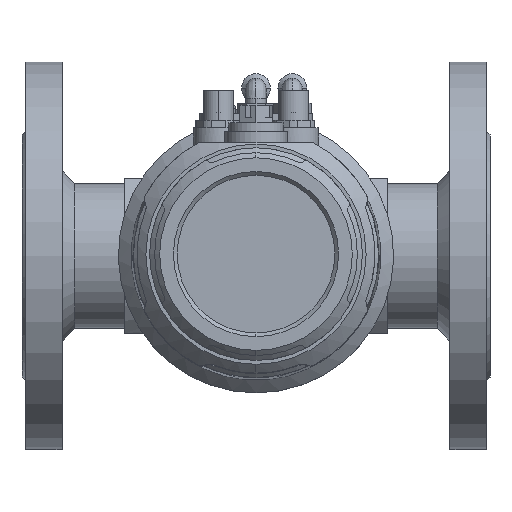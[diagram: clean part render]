
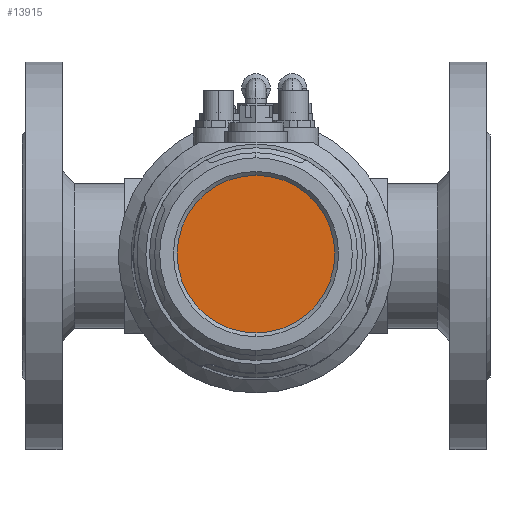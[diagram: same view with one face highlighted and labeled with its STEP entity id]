
A CAD part, top view. The second image highlights one B-rep face of the part: STEP entity #13915.
In plain terms, the highlighted planar face has unit normal (0, 0, 1) as drawn and (0, 1, 0) by its records, which use the part's own axes.
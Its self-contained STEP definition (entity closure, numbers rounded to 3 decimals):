
#9307=CARTESIAN_POINT('',(0.,20.,0.));
#9308=DIRECTION('',(0.,-1.,0.));
#9309=DIRECTION('',(-1.,0.,0.));
#9310=AXIS2_PLACEMENT_3D('',#9307,#9308,#9309);
#9312=CARTESIAN_POINT('',(0.,20.,0.));
#9313=DIRECTION('',(0.,-1.,0.));
#9314=DIRECTION('',(1.,0.,0.));
#9315=AXIS2_PLACEMENT_3D('',#9312,#9313,#9314);
#9333=CARTESIAN_POINT('',(-31.5,20.,0.));
#9334=CARTESIAN_POINT('',(31.5,20.,0.));
#9335=VERTEX_POINT('',#9333);
#9336=VERTEX_POINT('',#9334);
#13906=CARTESIAN_POINT('',(0.,20.,0.));
#13907=DIRECTION('',(0.,1.,0.));
#13908=DIRECTION('',(1.,0.,0.));
#13909=AXIS2_PLACEMENT_3D('',#13906,#13907,#13908);
#13910=PLANE('',#13909);
#13911=ORIENTED_EDGE('',*,*,#13886,.T.);
#13912=ORIENTED_EDGE('',*,*,#13900,.T.);
#13913=EDGE_LOOP('',(#13911,#13912));
#13914=FACE_OUTER_BOUND('',#13913,.F.);
#13915=ADVANCED_FACE('',(#13914),#13910,.T.);
#9311=CIRCLE('',#9310,31.5);
#9316=CIRCLE('',#9315,31.5);
#13886=EDGE_CURVE('',#9335,#9336,#9311,.T.);
#13900=EDGE_CURVE('',#9336,#9335,#9316,.T.);
